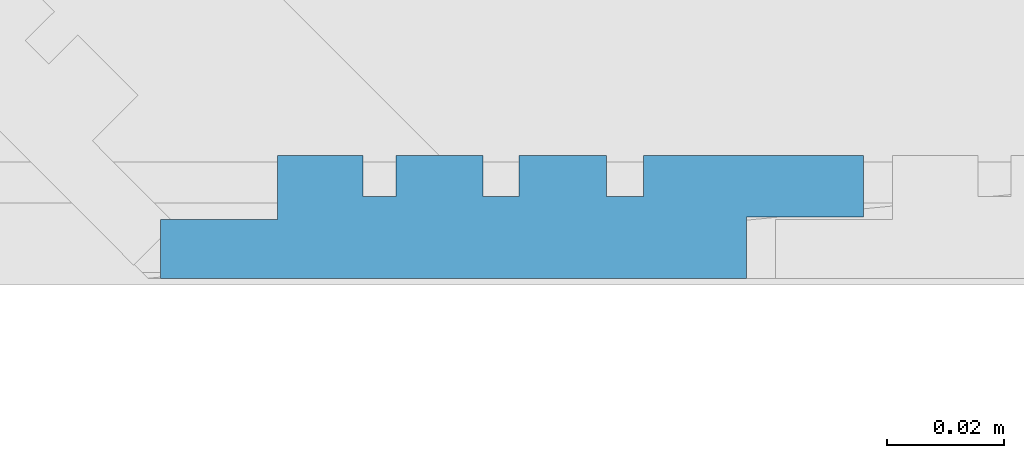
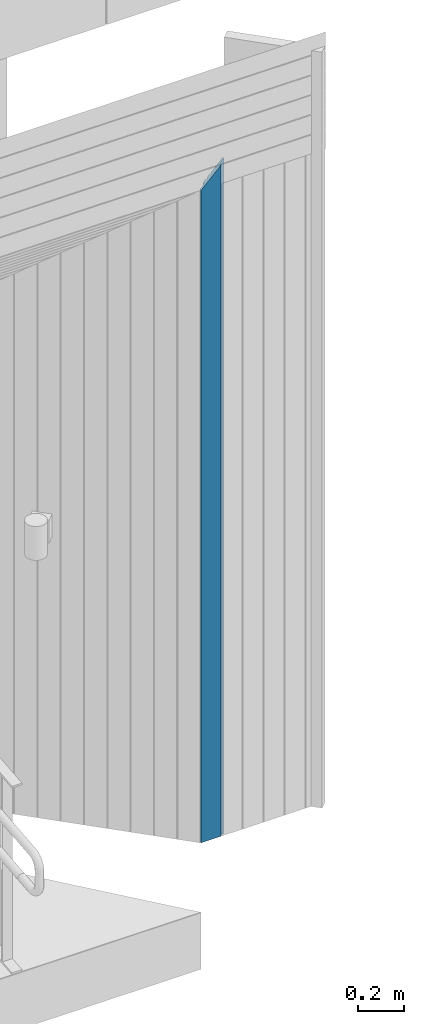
# One storey, part 103 of 418: 1 building element part, 1 element without a shape of its own.
"""IFC2X3 building model written with IfcOpenShell, lengths in millimetres."""

from ifc_helpers import new_model, entity, si_unit, converted_unit, derived_unit, money_unit, direction, frame, origin_with_axes, place, context, subcontext, project, spatial, polyline, outline, extrude, boolean, faceted_brep, material, type_object, element, aggregate, save


model = new_model("IFC2X3")

# Units and contexts
model_context = context("Model", 3, precision=0.01, world=origin_with_axes(), true_north=direction((0.0, 1.0)))
body_context = subcontext(model_context, "Body", "Model", "MODEL_VIEW")
ifc_project = project(units=[si_unit("LENGTHUNIT", "METRE", prefix="MILLI"), si_unit("AREAUNIT", "SQUARE_METRE"), si_unit("VOLUMEUNIT", "CUBIC_METRE"), converted_unit("PLANEANGLEUNIT", "DEGREE", entity("IfcPlaneAngleMeasure", 0.0174532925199), si_unit("PLANEANGLEUNIT", "RADIAN"), dimensions=[0, 0, 0, 0, 0, 0, 0]), si_unit("SOLIDANGLEUNIT", "STERADIAN"), money_unit("EUR"), converted_unit("TIMEUNIT", "Year", entity("IfcTimeMeasure", 31556926.0), si_unit("TIMEUNIT", "SECOND"), dimensions=[0, 0, 1, 0, 0, 0, 0]), si_unit("MASSUNIT", "GRAM", prefix="KILO"), si_unit("THERMODYNAMICTEMPERATUREUNIT", "DEGREE_CELSIUS"), si_unit("LUMINOUSINTENSITYUNIT", "LUMEN"), si_unit("ENERGYUNIT", "JOULE", prefix="MEGA"), derived_unit("THERMALCONDUCTANCEUNIT", [(si_unit("POWERUNIT", "WATT"), 1), (si_unit("LENGTHUNIT", "METRE"), -1), (si_unit("THERMODYNAMICTEMPERATUREUNIT", "KELVIN"), -1)]), derived_unit("SPECIFICHEATCAPACITYUNIT", [(si_unit("ENERGYUNIT", "JOULE"), 1), (si_unit("MASSUNIT", "GRAM", prefix="KILO"), -1), (si_unit("THERMODYNAMICTEMPERATUREUNIT", "KELVIN"), -1)]), derived_unit("MASSDENSITYUNIT", [(si_unit("MASSUNIT", "GRAM", prefix="KILO"), 1), (si_unit("VOLUMEUNIT", "CUBIC_METRE"), -1)])], contexts=[model_context])

# Site, building, storey
site_placement = place(None, origin_with_axes())
site = spatial("IfcSite", under=ifc_project, at=site_placement, Name="Paldiski mnt 245/1, Tallinn, Harjumaa", CompositionType="COMPLEX")
building_placement = place(site_placement, origin_with_axes())
building = spatial("IfcBuilding", under=site, at=building_placement, Name="RKAS Hoone üldnimetus (kasutust iseloomustav) -> IFC Project Manager -> SOLIBRI", CompositionType="ELEMENT")
storey_placement = place(building_placement, origin_with_axes())
storey = spatial("IfcBuildingStorey", under=building, at=storey_placement, Name="Esimene korrus", CompositionType="ELEMENT", Elevation=0.0)

# Proxy, building element part
building_element_proxy_type = type_object("IfcBuildingElementProxyType", Name="Laudis esiprofiil_01 21 x 622", PredefinedType="NOTDEFINED")
proxy_placement = place(storey_placement, frame((-37270.373884, -18705.5141429, 0.0), z_axis=(0.0, 0.0, 1.0), x_axis=(0.0, -1.0, 0.0)))
proxy = element("IfcBuildingElementProxy", 1, at=proxy_placement, inside=storey, type_object=building_element_proxy_type, Name="Varikatus")
ifc_material = material(Name="Laudis 5072 Honka 45 horisontaalne raastas")
building_element_part_placement = place(proxy_placement, origin_with_axes())
building_element_part = element("IfcBuildingElementPart", 2, at=building_element_part_placement, material=ifc_material, Name="Laudis 5072 Honka 45 horisontaalne raastas", context=body_context, shape_type="CSG", body=[
    boolean("DIFFERENCE", boolean("DIFFERENCE", boolean("DIFFERENCE", boolean("DIFFERENCE", boolean("DIFFERENCE", boolean("DIFFERENCE", extrude(outline(polyline([(3.20348192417e-08, -520.971430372), (-10.5000010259, -520.971430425), (-10.5000005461, -500.971429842), (-20.9999998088, -500.971430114), (-21.0000010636, -538.497524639), (-14.0000005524, -538.497525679), (-14.0000003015, -544.860022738), (-20.99999981, -544.860022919), (-20.9999998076, -559.79914009), (-14.0000002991, -559.799139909), (-14.0000007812, -565.926080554), (-21.0000002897, -565.926080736), (-21.0000013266, -580.754573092), (-14.0000008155, -580.754574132), (-14.0000015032, -586.395242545), (-21.0000010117, -586.395242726), (-21.0000007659, -600.971429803), (-10.000001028, -600.971430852), (-10.0000002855, -620.971430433), (-7.63172636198e-07, -620.971430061), (3.20348192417e-08, -520.971430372)])), origin_with_axes(), (0.0, 0.0, 1.0), 4086.15997799), faceted_brep([(-10.5000005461, -395.971429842, 3689.02857134), (-20.9999998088, -395.971430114, 3689.02857107), (-20.9999998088, -395.971430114, 4086.15997799), (-10.5000005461, -395.971429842, 4086.15997799), (-21.0000010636, -433.497524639, 3651.50247655), (-10.5000010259, -415.971430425, 3669.02857076), (3.20348192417e-08, -415.971430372, 3669.02857081), (-7.63172636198e-07, -515.971430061, 3569.02857112), (-10.0000002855, -515.971430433, 3569.02857075), (-10.000001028, -495.971430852, 3589.02857033), (-21.0000007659, -495.971429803, 3589.02857138), (-21.0000010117, -481.395242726, 3603.60475846), (-14.0000015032, -481.395242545, 3603.60475864), (-14.0000008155, -475.754574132, 3609.24542705), (-21.0000013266, -475.754573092, 3609.24542809), (-21.0000002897, -460.926080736, 3624.07392045), (-14.0000007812, -460.926080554, 3624.07392063), (-14.0000002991, -454.799139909, 3630.20086128), (-20.9999998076, -454.79914009, 3630.20086109), (-20.99999981, -439.860022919, 3645.13997827), (-14.0000003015, -439.860022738, 3645.13997845), (-14.0000005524, -433.497525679, 3651.50247551), (-21.0000010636, -433.497524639, 4086.15997799), (-7.63172636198e-07, -515.971430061, 4086.15997799), (3.20348192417e-08, -415.971430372, 4086.15997799), (-10.5000010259, -415.971430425, 4086.15997799), (-14.0000005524, -433.497525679, 4086.15997799), (-14.0000003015, -439.860022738, 4086.15997799), (-20.99999981, -439.860022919, 4086.15997799), (-20.9999998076, -454.79914009, 4086.15997799), (-14.0000002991, -454.799139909, 4086.15997799), (-14.0000007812, -460.926080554, 4086.15997799), (-21.0000002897, -460.926080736, 4086.15997799), (-21.0000013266, -475.754573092, 4086.15997799), (-14.0000008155, -475.754574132, 4086.15997799), (-14.0000015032, -481.395242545, 4086.15997799), (-21.0000010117, -481.395242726, 4086.15997799), (-21.0000007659, -495.971429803, 4086.15997799), (-10.000001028, -495.971430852, 4086.15997799), (-10.0000002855, -515.971430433, 4086.15997799)], [[[0, 1, 2, 3]], [[4, 1, 0, 5, 6, 7, 8, 9, 10, 11, 12, 13, 14, 15, 16, 17, 18, 19, 20, 21]], [[1, 4, 22, 2]], [[23, 24, 25, 3, 2, 22, 26, 27, 28, 29, 30, 31, 32, 33, 34, 35, 36, 37, 38, 39]], [[5, 0, 3, 25]], [[6, 5, 25, 24]], [[7, 6, 24, 23]], [[8, 7, 23, 39]], [[9, 8, 39, 38]], [[10, 9, 38, 37]], [[11, 10, 37, 36]], [[12, 11, 36, 35]], [[13, 12, 35, 34]], [[14, 13, 34, 33]], [[15, 14, 33, 32]], [[16, 15, 32, 31]], [[17, 16, 31, 30]], [[18, 17, 30, 29]], [[19, 18, 29, 28]], [[20, 19, 28, 27]], [[21, 20, 27, 26]], [[4, 21, 26, 22]]])), faceted_brep([(-10.5000005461, -500.971429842, 3584.02857134), (-20.9999998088, -500.971430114, 3584.02857107), (-20.9999998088, -500.971430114, 4086.15997799), (-10.5000005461, -500.971429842, 4086.15997799), (-21.0000010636, -538.497524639, 3546.50247655), (-10.5000010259, -520.971430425, 3564.02857076), (3.20348192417e-08, -520.971430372, 3564.02857081), (-7.63172636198e-07, -620.971430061, 3464.02857112), (-10.0000002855, -620.971430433, 3464.02857075), (-10.000001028, -600.971430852, 3484.02857033), (-21.0000007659, -600.971429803, 3484.02857138), (-21.0000010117, -586.395242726, 3498.60475846), (-14.0000015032, -586.395242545, 3498.60475864), (-14.0000008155, -580.754574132, 3504.24542705), (-21.0000013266, -580.754573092, 3504.24542809), (-21.0000002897, -565.926080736, 3519.07392045), (-14.0000007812, -565.926080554, 3519.07392063), (-14.0000002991, -559.799139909, 3525.20086128), (-20.9999998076, -559.79914009, 3525.20086109), (-20.99999981, -544.860022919, 3540.13997827), (-14.0000003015, -544.860022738, 3540.13997845), (-14.0000005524, -538.497525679, 3546.50247551), (-21.0000010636, -538.497524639, 4086.15997799), (-7.63172636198e-07, -620.971430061, 4086.15997799), (3.20348192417e-08, -520.971430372, 4086.15997799), (-10.5000010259, -520.971430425, 4086.15997799), (-14.0000005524, -538.497525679, 4086.15997799), (-14.0000003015, -544.860022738, 4086.15997799), (-20.99999981, -544.860022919, 4086.15997799), (-20.9999998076, -559.79914009, 4086.15997799), (-14.0000002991, -559.799139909, 4086.15997799), (-14.0000007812, -565.926080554, 4086.15997799), (-21.0000002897, -565.926080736, 4086.15997799), (-21.0000013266, -580.754573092, 4086.15997799), (-14.0000008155, -580.754574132, 4086.15997799), (-14.0000015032, -586.395242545, 4086.15997799), (-21.0000010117, -586.395242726, 4086.15997799), (-21.0000007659, -600.971429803, 4086.15997799), (-10.000001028, -600.971430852, 4086.15997799), (-10.0000002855, -620.971430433, 4086.15997799)], [[[0, 1, 2, 3]], [[4, 1, 0, 5, 6, 7, 8, 9, 10, 11, 12, 13, 14, 15, 16, 17, 18, 19, 20, 21]], [[1, 4, 22, 2]], [[23, 24, 25, 3, 2, 22, 26, 27, 28, 29, 30, 31, 32, 33, 34, 35, 36, 37, 38, 39]], [[5, 0, 3, 25]], [[6, 5, 25, 24]], [[7, 6, 24, 23]], [[8, 7, 23, 39]], [[9, 8, 39, 38]], [[10, 9, 38, 37]], [[11, 10, 37, 36]], [[12, 11, 36, 35]], [[13, 12, 35, 34]], [[14, 13, 34, 33]], [[15, 14, 33, 32]], [[16, 15, 32, 31]], [[17, 16, 31, 30]], [[18, 17, 30, 29]], [[19, 18, 29, 28]], [[20, 19, 28, 27]], [[21, 20, 27, 26]], [[4, 21, 26, 22]]])), faceted_brep([(-10.5000005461, -185.971429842, 3899.02857134), (-20.9999998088, -185.971430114, 3899.02857107), (-20.9999998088, -185.971430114, 4086.15997799), (-10.5000005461, -185.971429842, 4086.15997799), (-21.0000010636, -223.497524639, 3861.50247655), (-10.5000010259, -205.971430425, 3879.02857076), (3.20348192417e-08, -205.971430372, 3879.02857081), (-7.63172636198e-07, -305.971430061, 3779.02857112), (-10.0000002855, -305.971430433, 3779.02857075), (-10.000001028, -285.971430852, 3799.02857033), (-21.0000007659, -285.971429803, 3799.02857138), (-21.0000010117, -271.395242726, 3813.60475846), (-14.0000015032, -271.395242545, 3813.60475864), (-14.0000008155, -265.754574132, 3819.24542705), (-21.0000013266, -265.754573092, 3819.24542809), (-21.0000002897, -250.926080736, 3834.07392045), (-14.0000007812, -250.926080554, 3834.07392063), (-14.0000002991, -244.799139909, 3840.20086128), (-20.9999998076, -244.79914009, 3840.20086109), (-20.99999981, -229.860022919, 3855.13997827), (-14.0000003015, -229.860022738, 3855.13997845), (-14.0000005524, -223.497525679, 3861.50247551), (-21.0000010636, -223.497524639, 4086.15997799), (-7.63172636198e-07, -305.971430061, 4086.15997799), (3.20348192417e-08, -205.971430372, 4086.15997799), (-10.5000010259, -205.971430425, 4086.15997799), (-14.0000005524, -223.497525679, 4086.15997799), (-14.0000003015, -229.860022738, 4086.15997799), (-20.99999981, -229.860022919, 4086.15997799), (-20.9999998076, -244.79914009, 4086.15997799), (-14.0000002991, -244.799139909, 4086.15997799), (-14.0000007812, -250.926080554, 4086.15997799), (-21.0000002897, -250.926080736, 4086.15997799), (-21.0000013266, -265.754573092, 4086.15997799), (-14.0000008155, -265.754574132, 4086.15997799), (-14.0000015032, -271.395242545, 4086.15997799), (-21.0000010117, -271.395242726, 4086.15997799), (-21.0000007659, -285.971429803, 4086.15997799), (-10.000001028, -285.971430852, 4086.15997799), (-10.0000002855, -305.971430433, 4086.15997799)], [[[0, 1, 2, 3]], [[4, 1, 0, 5, 6, 7, 8, 9, 10, 11, 12, 13, 14, 15, 16, 17, 18, 19, 20, 21]], [[1, 4, 22, 2]], [[23, 24, 25, 3, 2, 22, 26, 27, 28, 29, 30, 31, 32, 33, 34, 35, 36, 37, 38, 39]], [[5, 0, 3, 25]], [[6, 5, 25, 24]], [[7, 6, 24, 23]], [[8, 7, 23, 39]], [[9, 8, 39, 38]], [[10, 9, 38, 37]], [[11, 10, 37, 36]], [[12, 11, 36, 35]], [[13, 12, 35, 34]], [[14, 13, 34, 33]], [[15, 14, 33, 32]], [[16, 15, 32, 31]], [[17, 16, 31, 30]], [[18, 17, 30, 29]], [[19, 18, 29, 28]], [[20, 19, 28, 27]], [[21, 20, 27, 26]], [[4, 21, 26, 22]]])), faceted_brep([(-10.5000005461, -290.971429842, 3794.02857134), (-20.9999998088, -290.971430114, 3794.02857107), (-20.9999998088, -290.971430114, 4086.15997799), (-10.5000005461, -290.971429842, 4086.15997799), (-21.0000010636, -328.497524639, 3756.50247655), (-10.5000010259, -310.971430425, 3774.02857076), (3.20348192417e-08, -310.971430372, 3774.02857081), (-7.63172636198e-07, -410.971430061, 3674.02857112), (-10.0000002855, -410.971430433, 3674.02857075), (-10.000001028, -390.971430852, 3694.02857033), (-21.0000007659, -390.971429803, 3694.02857138), (-21.0000010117, -376.395242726, 3708.60475846), (-14.0000015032, -376.395242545, 3708.60475864), (-14.0000008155, -370.754574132, 3714.24542705), (-21.0000013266, -370.754573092, 3714.24542809), (-21.0000002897, -355.926080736, 3729.07392045), (-14.0000007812, -355.926080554, 3729.07392063), (-14.0000002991, -349.799139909, 3735.20086128), (-20.9999998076, -349.79914009, 3735.20086109), (-20.99999981, -334.860022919, 3750.13997827), (-14.0000003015, -334.860022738, 3750.13997845), (-14.0000005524, -328.497525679, 3756.50247551), (-21.0000010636, -328.497524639, 4086.15997799), (-7.63172636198e-07, -410.971430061, 4086.15997799), (3.20348192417e-08, -310.971430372, 4086.15997799), (-10.5000010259, -310.971430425, 4086.15997799), (-14.0000005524, -328.497525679, 4086.15997799), (-14.0000003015, -334.860022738, 4086.15997799), (-20.99999981, -334.860022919, 4086.15997799), (-20.9999998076, -349.79914009, 4086.15997799), (-14.0000002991, -349.799139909, 4086.15997799), (-14.0000007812, -355.926080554, 4086.15997799), (-21.0000002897, -355.926080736, 4086.15997799), (-21.0000013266, -370.754573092, 4086.15997799), (-14.0000008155, -370.754574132, 4086.15997799), (-14.0000015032, -376.395242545, 4086.15997799), (-21.0000010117, -376.395242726, 4086.15997799), (-21.0000007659, -390.971429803, 4086.15997799), (-10.000001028, -390.971430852, 4086.15997799), (-10.0000002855, -410.971430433, 4086.15997799)], [[[0, 1, 2, 3]], [[4, 1, 0, 5, 6, 7, 8, 9, 10, 11, 12, 13, 14, 15, 16, 17, 18, 19, 20, 21]], [[1, 4, 22, 2]], [[23, 24, 25, 3, 2, 22, 26, 27, 28, 29, 30, 31, 32, 33, 34, 35, 36, 37, 38, 39]], [[5, 0, 3, 25]], [[6, 5, 25, 24]], [[7, 6, 24, 23]], [[8, 7, 23, 39]], [[9, 8, 39, 38]], [[10, 9, 38, 37]], [[11, 10, 37, 36]], [[12, 11, 36, 35]], [[13, 12, 35, 34]], [[14, 13, 34, 33]], [[15, 14, 33, 32]], [[16, 15, 32, 31]], [[17, 16, 31, 30]], [[18, 17, 30, 29]], [[19, 18, 29, 28]], [[20, 19, 28, 27]], [[21, 20, 27, 26]], [[4, 21, 26, 22]]])), faceted_brep([(-1.4387921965e-06, -95.9714304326, 3989.02857075), (8.28137558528e-09, 1.13997680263, 4086.13997799), (8.28137558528e-09, 1.13997680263, 4086.15997799), (-1.4387921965e-06, -95.9714304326, 4086.15997799), (-14.0000008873, -12.860024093, 4072.13997709), (-10.0000000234, -95.9714304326, 3989.02857075), (-10.0000014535, -75.9714304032, 4009.02857078), (-21.0000013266, -75.9714304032, 4009.02857078), (-21.0000013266, -61.3952431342, 4023.60475805), (-14.0000008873, -61.3952431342, 4023.60475805), (-14.0000008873, -55.7545748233, 4029.24542636), (-21.0000013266, -55.7545733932, 4029.24542779), (-20.9999998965, -40.9260801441, 4044.07392104), (-14.0000008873, -40.9260801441, 4044.07392104), (-14.0000008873, -34.7991393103, 4050.20086187), (-20.9999998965, -34.7991407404, 4050.20086044), (-20.9999998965, -19.8600231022, 4065.13997808), (-14.0000008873, -19.8600231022, 4065.13997808), (-14.0000008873, -12.860024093, 4086.15997799), (-20.9999998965, -40.9260801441, 4086.15997799), (-21.0000013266, -55.7545733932, 4086.15997799), (-14.0000008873, -55.7545748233, 4086.15997799), (-14.0000008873, -61.3952431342, 4086.15997799), (-21.0000013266, -61.3952431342, 4086.15997799), (-21.0000013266, -75.9714304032, 4086.15997799), (-10.0000014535, -75.9714304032, 4086.15997799), (-10.0000000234, -95.9714304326, 4086.15997799), (-14.0000008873, -19.8600231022, 4086.15997799), (-20.9999998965, -19.8600231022, 4086.15997799), (-20.9999998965, -34.7991407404, 4086.15997799), (-14.0000008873, -34.7991393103, 4086.15997799), (-14.0000008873, -40.9260801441, 4086.15997799)], [[[0, 1, 2, 3]], [[4, 1, 0, 5, 6, 7, 8, 9, 10, 11, 12, 13, 14, 15, 16, 17]], [[1, 4, 18, 2]], [[19, 20, 21, 22, 23, 24, 25, 26, 3, 2, 18, 27, 28, 29, 30, 31]], [[5, 0, 3, 26]], [[6, 5, 26, 25]], [[7, 6, 25, 24]], [[8, 7, 24, 23]], [[9, 8, 23, 22]], [[10, 9, 22, 21]], [[11, 10, 21, 20]], [[12, 11, 20, 19]], [[13, 12, 19, 31]], [[14, 13, 31, 30]], [[15, 14, 30, 29]], [[16, 15, 29, 28]], [[17, 16, 28, 27]], [[4, 17, 27, 18]]])), faceted_brep([(-10.5000005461, -80.9714298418, 4004.02857134), (-20.9999998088, -80.9714301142, 4004.02857107), (-20.9999998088, -80.9714301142, 4086.15997799), (-10.5000005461, -80.9714298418, 4086.15997799), (-21.0000010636, -118.497524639, 3966.50247655), (-10.5000010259, -100.971430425, 3984.02857076), (3.20348192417e-08, -100.971430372, 3984.02857081), (-7.63172636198e-07, -200.971430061, 3884.02857112), (-10.0000002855, -200.971430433, 3884.02857075), (-10.000001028, -180.971430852, 3904.02857033), (-21.0000007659, -180.971429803, 3904.02857138), (-21.0000010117, -166.395242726, 3918.60475846), (-14.0000015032, -166.395242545, 3918.60475864), (-14.0000008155, -160.754574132, 3924.24542705), (-21.0000013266, -160.754573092, 3924.24542809), (-21.0000002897, -145.926080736, 3939.07392045), (-14.0000007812, -145.926080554, 3939.07392063), (-14.0000002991, -139.799139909, 3945.20086128), (-20.9999998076, -139.79914009, 3945.20086109), (-20.99999981, -124.860022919, 3960.13997827), (-14.0000003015, -124.860022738, 3960.13997845), (-14.0000005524, -118.497525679, 3966.50247551), (-21.0000010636, -118.497524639, 4086.15997799), (-7.63172636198e-07, -200.971430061, 4086.15997799), (3.20348192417e-08, -100.971430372, 4086.15997799), (-10.5000010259, -100.971430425, 4086.15997799), (-14.0000005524, -118.497525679, 4086.15997799), (-14.0000003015, -124.860022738, 4086.15997799), (-20.99999981, -124.860022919, 4086.15997799), (-20.9999998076, -139.79914009, 4086.15997799), (-14.0000002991, -139.799139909, 4086.15997799), (-14.0000007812, -145.926080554, 4086.15997799), (-21.0000002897, -145.926080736, 4086.15997799), (-21.0000013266, -160.754573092, 4086.15997799), (-14.0000008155, -160.754574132, 4086.15997799), (-14.0000015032, -166.395242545, 4086.15997799), (-21.0000010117, -166.395242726, 4086.15997799), (-21.0000007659, -180.971429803, 4086.15997799), (-10.000001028, -180.971430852, 4086.15997799), (-10.0000002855, -200.971430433, 4086.15997799)], [[[0, 1, 2, 3]], [[4, 1, 0, 5, 6, 7, 8, 9, 10, 11, 12, 13, 14, 15, 16, 17, 18, 19, 20, 21]], [[1, 4, 22, 2]], [[23, 24, 25, 3, 2, 22, 26, 27, 28, 29, 30, 31, 32, 33, 34, 35, 36, 37, 38, 39]], [[5, 0, 3, 25]], [[6, 5, 25, 24]], [[7, 6, 24, 23]], [[8, 7, 23, 39]], [[9, 8, 39, 38]], [[10, 9, 38, 37]], [[11, 10, 37, 36]], [[12, 11, 36, 35]], [[13, 12, 35, 34]], [[14, 13, 34, 33]], [[15, 14, 33, 32]], [[16, 15, 32, 31]], [[17, 16, 31, 30]], [[18, 17, 30, 29]], [[19, 18, 29, 28]], [[20, 19, 28, 27]], [[21, 20, 27, 26]], [[4, 21, 26, 22]]])),
])
aggregate(proxy, [building_element_part])

save(model, "model.ifc")
